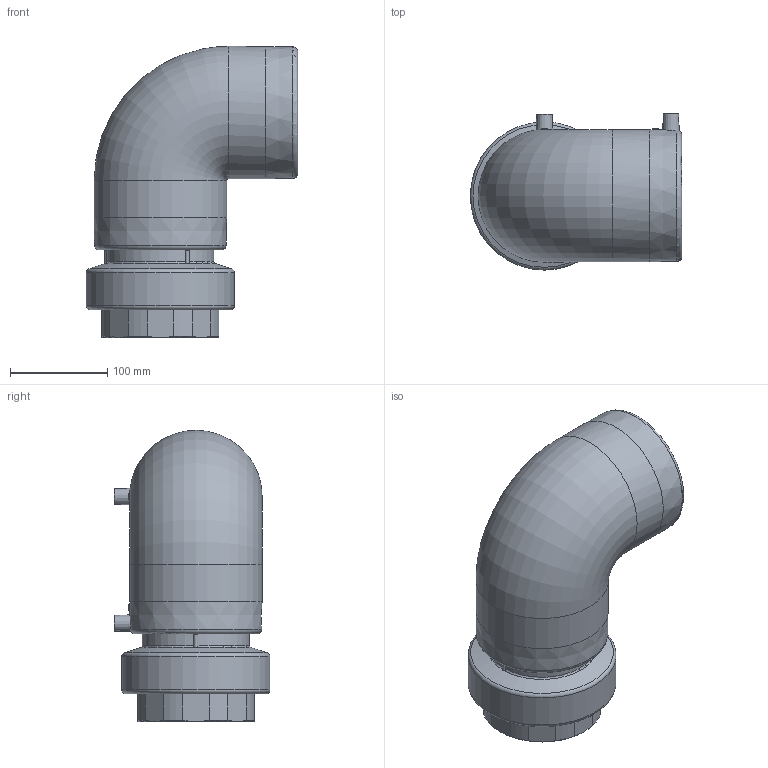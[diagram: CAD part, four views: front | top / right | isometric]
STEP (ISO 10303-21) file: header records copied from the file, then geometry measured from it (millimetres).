
FILE_DESCRIPTION(/* description */ ('Unknown'),/* implementation_level */ '2;1');
FILE_NAME(/* name */ 'GE9TFP110C',/* time_stamp */ '2021-03-02T12:30:27+01:00',/* author */ ('Unknown'),/* organization */ ('Unknown'),/* preprocessor_version */ 'ST-DEVELOPER v16.7',/* originating_system */ 'Solid Edge',/* authorisation */ 'Unknown');
FILE_SCHEMA (('AUTOMOTIVE_DESIGN {1 0 10303 214 3 1 1}'));
Length unit declared in the file: millimetre
Products named in the file (5): GE9TFP110C; GE9P110C; RTOFP110C; Parte PE 110; IOF110C
Assembly tree (4 placements, depth 3):
  GE9TFP110C
    GE9P110C
    RTOFP110C
      Parte PE 110
      IOF110C
Bounding box: 217 x 160 x 299 mm (x, y, z)
Volume: 2184029.9 mm3; surface area: 408672.5 mm2
Topology: 3 solids, 3 shells, 203 faces, 488 edges, 309 vertices
Faces by surface type: plane 101, cylinder 49, cone 23, torus 15, bspline 15
Full cylindrical faces by diameter (mm): 4 x2, 6 x2, 12 x2, 90 x1, 100 x2, 106 x2, 110 x3, 110.072 x1, 119 x2, 123.4 x2, 129 x8, 136 x2, 152 x1
Entity records: 6489 total; most frequent: CARTESIAN_POINT 1406, DIRECTION 950, ORIENTED_EDGE 844, EDGE_CURVE 422, AXIS2_PLACEMENT_3D 393, VERTEX_POINT 293, EDGE_LOOP 277, FACE_BOUND 277
